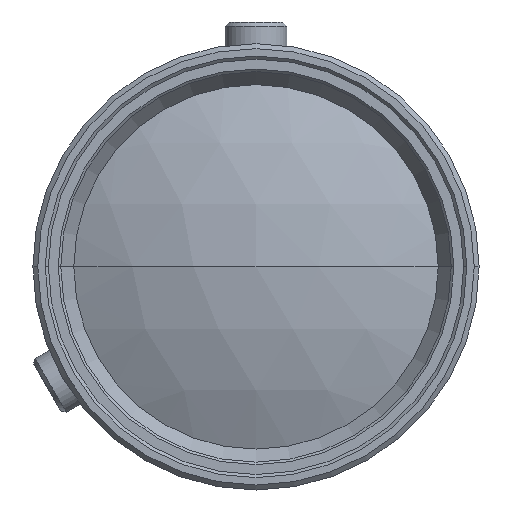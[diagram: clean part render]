
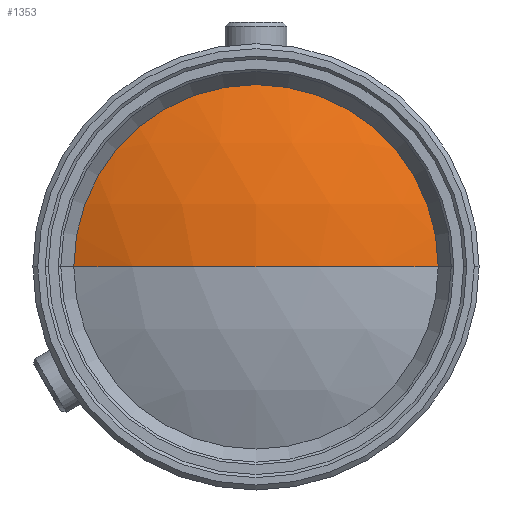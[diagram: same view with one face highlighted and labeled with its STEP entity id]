
A CAD part, left-side view. The second image highlights one B-rep face of the part: STEP entity #1353.
In plain terms, the highlighted spherical face has radius 34.951 mm.
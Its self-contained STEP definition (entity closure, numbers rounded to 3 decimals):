
#8 = ORIENTED_EDGE ( 'NONE', *, *, #2018, .F. ) ;
#42 = CARTESIAN_POINT ( 'NONE',  ( -29.819, 0., 0. ) ) ;
#47 = SPHERICAL_SURFACE ( 'NONE', #2401, 34.951 ) ;
#193 = EDGE_CURVE ( 'NONE', #3088, #554, #2865, .T. ) ;
#255 = CARTESIAN_POINT ( 'NONE',  ( -61.528, 0., 0. ) ) ;
#370 = AXIS2_PLACEMENT_3D ( 'NONE', #255, #1987, #562 ) ;
#403 = DIRECTION ( 'NONE',  ( 0., 0., 1. ) ) ;
#464 = DIRECTION ( 'NONE',  ( 0., -1., 0. ) ) ;
#554 = VERTEX_POINT ( 'NONE', #2674 ) ;
#562 = DIRECTION ( 'NONE',  ( 0., 1., 0. ) ) ;
#774 = CARTESIAN_POINT ( 'NONE',  ( -29.819, 0., 0. ) ) ;
#801 = CARTESIAN_POINT ( 'NONE',  ( -61.528, 14.7, 0. ) ) ;
#968 = CIRCLE ( 'NONE', #3342, 34.951 ) ;
#986 = EDGE_CURVE ( 'NONE', #1857, #554, #968, .T. ) ;
#1052 = DIRECTION ( 'NONE',  ( -1., 0., 0. ) ) ;
#1083 = EDGE_LOOP ( 'NONE', ( #8, #2542, #2437 ) ) ;
#1311 = CARTESIAN_POINT ( 'NONE',  ( -29.819, 0., 0. ) ) ;
#1353 = ADVANCED_FACE ( 'NONE', ( #1473 ), #47, .T. ) ;
#1473 = FACE_OUTER_BOUND ( 'NONE', #1083, .T. ) ;
#1486 = CARTESIAN_POINT ( 'NONE',  ( -64.77, 0., 0. ) ) ;
#1730 = DIRECTION ( 'NONE',  ( 0., 1., 0. ) ) ;
#1857 = VERTEX_POINT ( 'NONE', #1486 ) ;
#1987 = DIRECTION ( 'NONE',  ( 1., 0., 0. ) ) ;
#2018 = EDGE_CURVE ( 'NONE', #1857, #3088, #2075, .T. ) ;
#2075 = CIRCLE ( 'NONE', #2565, 34.951 ) ;
#2401 = AXIS2_PLACEMENT_3D ( 'NONE', #42, #3149, #1730 ) ;
#2437 = ORIENTED_EDGE ( 'NONE', *, *, #193, .F. ) ;
#2542 = ORIENTED_EDGE ( 'NONE', *, *, #986, .T. ) ;
#2565 = AXIS2_PLACEMENT_3D ( 'NONE', #774, #2754, #1052 ) ;
#2674 = CARTESIAN_POINT ( 'NONE',  ( -61.528, -14.7, 0. ) ) ;
#2754 = DIRECTION ( 'NONE',  ( 0., 0., -1. ) ) ;
#2865 = CIRCLE ( 'NONE', #370, 14.7 ) ;
#3088 = VERTEX_POINT ( 'NONE', #801 ) ;
#3149 = DIRECTION ( 'NONE',  ( 0., 0., 1. ) ) ;
#3342 = AXIS2_PLACEMENT_3D ( 'NONE', #1311, #403, #464 ) ;
